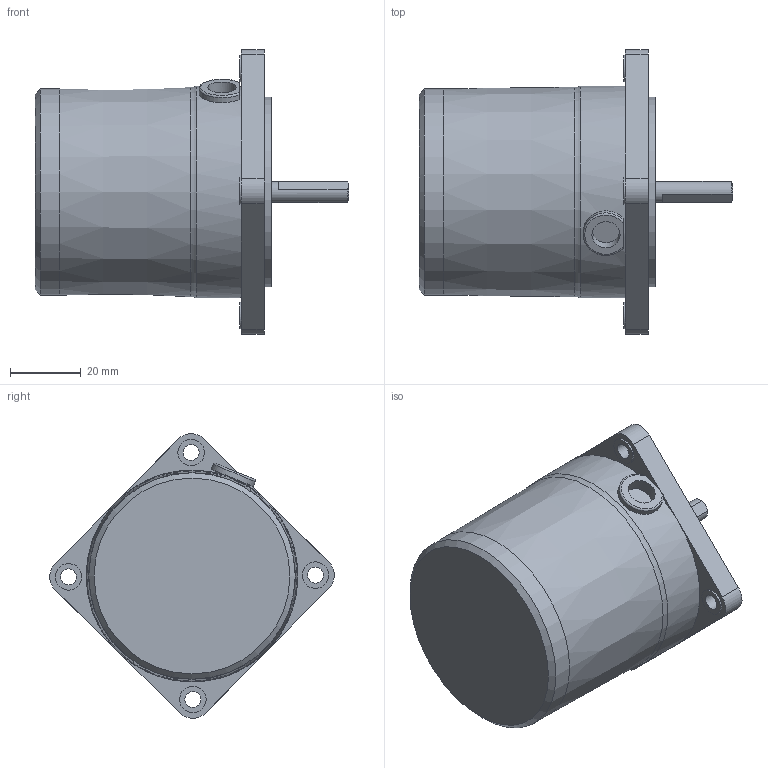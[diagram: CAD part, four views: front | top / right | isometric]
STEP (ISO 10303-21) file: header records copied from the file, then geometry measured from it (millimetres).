
FILE_DESCRIPTION((''),'2;1');
FILE_NAME('D:\STP파일\3W MOTOR\S6I03G.stp','2013-05-20T15:41:21',('leebh'),(''),'Autodesk Inventor 2011','Autodesk Inventor 2011','');
FILE_SCHEMA(('AUTOMOTIVE_DESIGN { 1 0 10303 214 1 1 1 1 }'));
Length unit declared in the file: millimetre
Products named in the file (1): 부품1
Bounding box: 89 x 80.68 x 80.68 mm (x, y, z)
Volume: 182653 mm3; surface area: 21808.7 mm2
Topology: 1 solids, 2 shells, 78 faces, 190 edges, 124 vertices
Faces by surface type: plane 44, cylinder 29, cone 3, torus 2
Full cylindrical faces by diameter (mm): 4.5 x4, 6 x1, 7.5 x4, 8 x1, 10.1 x1, 25 x1, 54 x1, 58.5 x1, 60 x1
Entity records: 2276 total; most frequent: CARTESIAN_POINT 426, DIRECTION 393, ORIENTED_EDGE 338, EDGE_CURVE 169, AXIS2_PLACEMENT_3D 151, VERTEX_POINT 121, EDGE_LOOP 116, VECTOR 91
